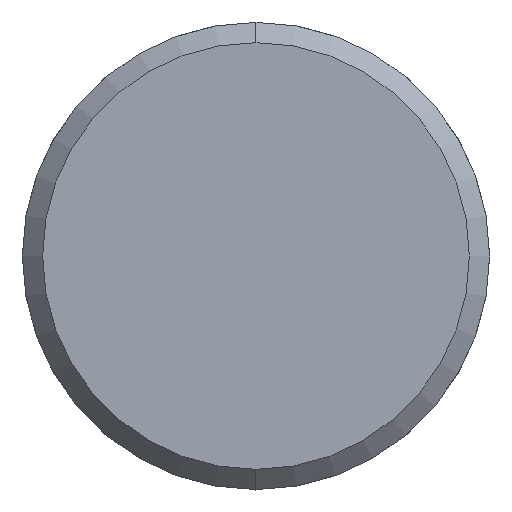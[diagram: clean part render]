
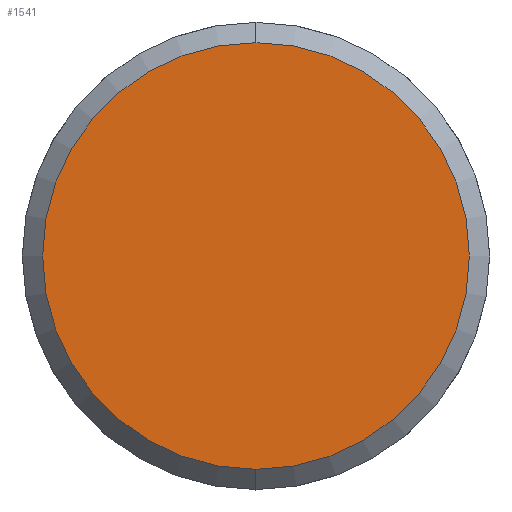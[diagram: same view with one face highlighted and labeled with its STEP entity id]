
A CAD part, front view. The second image highlights one B-rep face of the part: STEP entity #1541.
In plain terms, the highlighted planar face has unit normal (0, -1, 0).
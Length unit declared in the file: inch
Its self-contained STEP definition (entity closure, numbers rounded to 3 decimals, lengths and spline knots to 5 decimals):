
#83 = FACE_OUTER_BOUND ( 'NONE', #2777, .T. ) ;
#270 = AXIS2_PLACEMENT_3D ( 'NONE', #698, #699, #700 ) ;
#283 = AXIS2_PLACEMENT_3D ( 'NONE', #3858, #3943, #3896 ) ;
#698 = CARTESIAN_POINT ( 'NONE',  ( -1.67039, 0.58762, 0. ) ) ;
#699 = DIRECTION ( 'NONE',  ( 0., 1., 0. ) ) ;
#700 = DIRECTION ( 'NONE',  ( 0., 0., 1. ) ) ;
#1032 = EDGE_CURVE ( 'NONE', #2319, #2281, #2190, .T. ) ;
#1053 = EDGE_CURVE ( 'NONE', #2281, #2319, #3838, .T. ) ;
#1541 = ADVANCED_FACE ( 'NONE', ( #83 ), #3142, .T. ) ;
#1822 = AXIS2_PLACEMENT_3D ( 'NONE', #3151, #3152, #3153 ) ;
#2101 = ORIENTED_EDGE ( 'NONE', *, *, #1032, .F. ) ;
#2102 = ORIENTED_EDGE ( 'NONE', *, *, #1053, .F. ) ;
#2190 = CIRCLE ( 'NONE', #283, 0.658 ) ;
#2281 = VERTEX_POINT ( 'NONE', #3236 ) ;
#2319 = VERTEX_POINT ( 'NONE', #3262 ) ;
#2777 = EDGE_LOOP ( 'NONE', ( #2101, #2102 ) ) ;
#3142 = PLANE ( 'NONE',  #1822 ) ;
#3151 = CARTESIAN_POINT ( 'NONE',  ( -1.14589, 0.58762, 0. ) ) ;
#3152 = DIRECTION ( 'NONE',  ( 0., -1., 0. ) ) ;
#3153 = DIRECTION ( 'NONE',  ( 0., 0., -1. ) ) ;
#3236 = CARTESIAN_POINT ( 'NONE',  ( -1.67039, 0.58762, -0.658 ) ) ;
#3262 = CARTESIAN_POINT ( 'NONE',  ( -1.67039, 0.58762, 0.658 ) ) ;
#3838 = CIRCLE ( 'NONE', #270, 0.658 ) ;
#3858 = CARTESIAN_POINT ( 'NONE',  ( -1.67039, 0.58762, 0. ) ) ;
#3896 = DIRECTION ( 'NONE',  ( 0., 0., 1. ) ) ;
#3943 = DIRECTION ( 'NONE',  ( 0., 1., 0. ) ) ;
